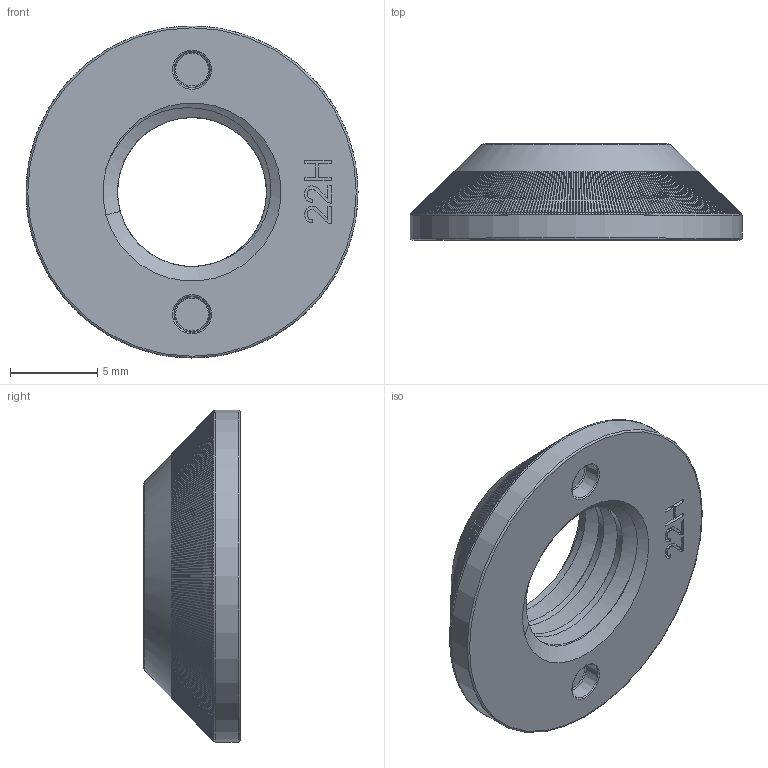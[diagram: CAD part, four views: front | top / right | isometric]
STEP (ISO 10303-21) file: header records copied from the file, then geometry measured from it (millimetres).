
FILE_DESCRIPTION(/* description */ (''),/* implementation_level */ '2;1');
FILE_NAME(/* name */ 'HEWI_CONU_M10_PreFinal_1.step',/* time_stamp */ '2024-01-23T23:45:51+01:00',/* author */ (''),/* organization */ (''),/* preprocessor_version */ 'ST-DEVELOPER v20',/* originating_system */ 'Autodesk Translation Framework v12.14.0.127',/* authorisation */ '');
FILE_SCHEMA (('AUTOMOTIVE_DESIGN { 1 0 10303 214 3 1 1 }'));
Length unit declared in the file: millimetre
Products named in the file (1): HEWI_CONU_M10
Bounding box: 19 x 5.5 x 19 mm (x, y, z)
Volume: 754.4 mm3; surface area: 880.5 mm2
Topology: 1 solids, 1 shells, 1735 faces, 5832 edges, 3445 vertices
Faces by surface type: bspline 1356, cylinder 340, plane 27, torus 7, cone 5
Full cylindrical faces by diameter (mm): 8.526 x2, 10.198 x3, 19 x1
Entity records: 127430 total; most frequent: CARTESIAN_POINT 91899, ORIENTED_EDGE 10346, EDGE_CURVE 5173, DIRECTION 4217, VERTEX_POINT 3445, B_SPLINE_CURVE_WITH_KNOTS 2733, AXIS2_PLACEMENT_3D 2055, EDGE_LOOP 1742
